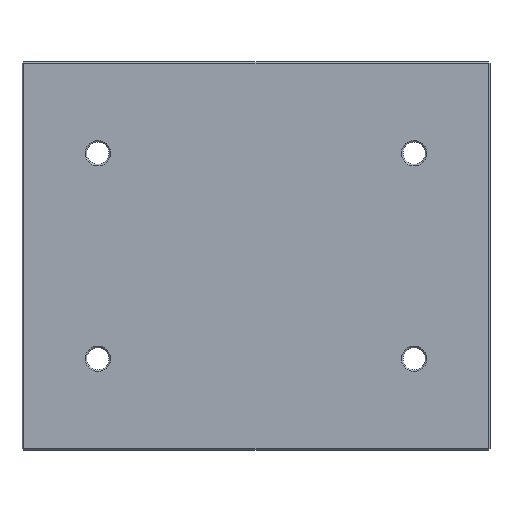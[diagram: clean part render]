
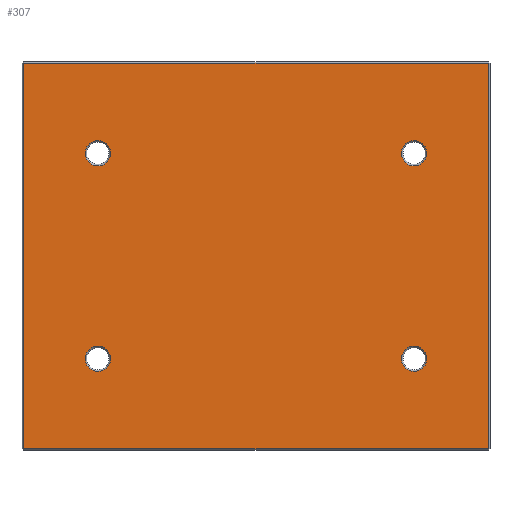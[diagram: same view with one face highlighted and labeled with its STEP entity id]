
A CAD part, front view. The second image highlights one B-rep face of the part: STEP entity #307.
In plain terms, the highlighted planar face has unit normal (0, -1, 0).
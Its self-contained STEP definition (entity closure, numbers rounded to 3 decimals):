
#8 = DIRECTION ( 'NONE',  ( 1., 0., 0. ) ) ;
#22 = CARTESIAN_POINT ( 'NONE',  ( 100., 0., 65. ) ) ;
#35 = CARTESIAN_POINT ( 'NONE',  ( 0., 0., 122. ) ) ;
#43 = EDGE_LOOP ( 'NONE', ( #561, #463, #1217, #1305 ) ) ;
#56 = DIRECTION ( 'NONE',  ( 0., 1., 0. ) ) ;
#64 = CARTESIAN_POINT ( 'NONE',  ( -100., 0., -65. ) ) ;
#86 = DIRECTION ( 'NONE',  ( 0., 1., 0. ) ) ;
#102 = CIRCLE ( 'NONE', #1517, 8. ) ;
#104 = DIRECTION ( 'NONE',  ( 0., 1., 0. ) ) ;
#108 = CARTESIAN_POINT ( 'NONE',  ( 100., 0., -65. ) ) ;
#116 = VERTEX_POINT ( 'NONE', #438 ) ;
#159 = DIRECTION ( 'NONE',  ( 0., 0., 1. ) ) ;
#171 = DIRECTION ( 'NONE',  ( 0., 0., 1. ) ) ;
#183 = CARTESIAN_POINT ( 'NONE',  ( 0., 0., -122. ) ) ;
#214 = ORIENTED_EDGE ( 'NONE', *, *, #909, .T. ) ;
#225 = VERTEX_POINT ( 'NONE', #1209 ) ;
#231 = VERTEX_POINT ( 'NONE', #504 ) ;
#238 = CARTESIAN_POINT ( 'NONE',  ( -147., 0., -122. ) ) ;
#250 = DIRECTION ( 'NONE',  ( 0., 1., 0. ) ) ;
#260 = CIRCLE ( 'NONE', #851, 8. ) ;
#267 = EDGE_CURVE ( 'NONE', #1307, #867, #864, .T. ) ;
#281 = EDGE_CURVE ( 'NONE', #1006, #539, #1520, .T. ) ;
#305 = CARTESIAN_POINT ( 'NONE',  ( -100., 0., -73. ) ) ;
#307 = ADVANCED_FACE ( 'NONE', ( #951, #1441, #1577, #1281, #1244 ), #525, .F. ) ;
#345 = CARTESIAN_POINT ( 'NONE',  ( 100., 0., -73. ) ) ;
#358 = AXIS2_PLACEMENT_3D ( 'NONE', #1613, #1594, #508 ) ;
#367 = AXIS2_PLACEMENT_3D ( 'NONE', #410, #250, #650 ) ;
#410 = CARTESIAN_POINT ( 'NONE',  ( -100., 0., 65. ) ) ;
#430 = EDGE_CURVE ( 'NONE', #1230, #231, #1634, .T. ) ;
#432 = ORIENTED_EDGE ( 'NONE', *, *, #1291, .T. ) ;
#438 = CARTESIAN_POINT ( 'NONE',  ( 147., 0., -122. ) ) ;
#455 = DIRECTION ( 'NONE',  ( -1., 0., 0. ) ) ;
#458 = VECTOR ( 'NONE', #455, 1000. ) ;
#463 = ORIENTED_EDGE ( 'NONE', *, *, #1220, .T. ) ;
#466 = CIRCLE ( 'NONE', #367, 8. ) ;
#485 = CARTESIAN_POINT ( 'NONE',  ( 100., 0., 65. ) ) ;
#492 = DIRECTION ( 'NONE',  ( 0., 1., 0. ) ) ;
#497 = DIRECTION ( 'NONE',  ( 0., 0., 1. ) ) ;
#501 = LINE ( 'NONE', #1529, #783 ) ;
#504 = CARTESIAN_POINT ( 'NONE',  ( -100., 0., -57. ) ) ;
#508 = DIRECTION ( 'NONE',  ( 0., 0., 1. ) ) ;
#519 = LINE ( 'NONE', #183, #1124 ) ;
#521 = DIRECTION ( 'NONE',  ( 0., 1., 0. ) ) ;
#525 = PLANE ( 'NONE',  #546 ) ;
#539 = VERTEX_POINT ( 'NONE', #870 ) ;
#546 = AXIS2_PLACEMENT_3D ( 'NONE', #609, #521, #623 ) ;
#548 = EDGE_CURVE ( 'NONE', #890, #822, #1175, .T. ) ;
#561 = ORIENTED_EDGE ( 'NONE', *, *, #1542, .T. ) ;
#565 = DIRECTION ( 'NONE',  ( 0., 0., -1. ) ) ;
#581 = EDGE_CURVE ( 'NONE', #822, #890, #260, .T. ) ;
#593 = CARTESIAN_POINT ( 'NONE',  ( 100., 0., 73. ) ) ;
#594 = VERTEX_POINT ( 'NONE', #1632 ) ;
#609 = CARTESIAN_POINT ( 'NONE',  ( 0., 0., 0. ) ) ;
#623 = DIRECTION ( 'NONE',  ( 0., 0., 1. ) ) ;
#650 = DIRECTION ( 'NONE',  ( 0., 0., 1. ) ) ;
#666 = ORIENTED_EDGE ( 'NONE', *, *, #581, .T. ) ;
#684 = AXIS2_PLACEMENT_3D ( 'NONE', #108, #104, #1228 ) ;
#733 = CARTESIAN_POINT ( 'NONE',  ( 100., 0., -65. ) ) ;
#750 = AXIS2_PLACEMENT_3D ( 'NONE', #22, #56, #171 ) ;
#783 = VECTOR ( 'NONE', #1412, 1000. ) ;
#822 = VERTEX_POINT ( 'NONE', #345 ) ;
#851 = AXIS2_PLACEMENT_3D ( 'NONE', #733, #891, #882 ) ;
#864 = LINE ( 'NONE', #1248, #1560 ) ;
#866 = VERTEX_POINT ( 'NONE', #1200 ) ;
#867 = VERTEX_POINT ( 'NONE', #238 ) ;
#870 = CARTESIAN_POINT ( 'NONE',  ( 100., 0., 57. ) ) ;
#882 = DIRECTION ( 'NONE',  ( 0., 0., 1. ) ) ;
#890 = VERTEX_POINT ( 'NONE', #1127 ) ;
#891 = DIRECTION ( 'NONE',  ( 0., 1., 0. ) ) ;
#909 = EDGE_CURVE ( 'NONE', #231, #1230, #1159, .T. ) ;
#938 = EDGE_CURVE ( 'NONE', #867, #116, #519, .T. ) ;
#951 = FACE_BOUND ( 'NONE', #1637, .T. ) ;
#965 = EDGE_CURVE ( 'NONE', #539, #1006, #102, .T. ) ;
#1006 = VERTEX_POINT ( 'NONE', #593 ) ;
#1016 = ORIENTED_EDGE ( 'NONE', *, *, #430, .T. ) ;
#1078 = EDGE_LOOP ( 'NONE', ( #432, #1293 ) ) ;
#1094 = ORIENTED_EDGE ( 'NONE', *, *, #548, .T. ) ;
#1124 = VECTOR ( 'NONE', #8, 1000. ) ;
#1127 = CARTESIAN_POINT ( 'NONE',  ( 100., 0., -57. ) ) ;
#1159 = CIRCLE ( 'NONE', #1424, 8. ) ;
#1175 = CIRCLE ( 'NONE', #684, 8. ) ;
#1198 = CARTESIAN_POINT ( 'NONE',  ( -147., 0., 122. ) ) ;
#1200 = CARTESIAN_POINT ( 'NONE',  ( 147., 0., 122. ) ) ;
#1209 = CARTESIAN_POINT ( 'NONE',  ( -100., 0., 73. ) ) ;
#1217 = ORIENTED_EDGE ( 'NONE', *, *, #267, .T. ) ;
#1220 = EDGE_CURVE ( 'NONE', #866, #1307, #1428, .T. ) ;
#1228 = DIRECTION ( 'NONE',  ( 0., 0., 1. ) ) ;
#1230 = VERTEX_POINT ( 'NONE', #305 ) ;
#1244 = FACE_OUTER_BOUND ( 'NONE', #43, .T. ) ;
#1248 = CARTESIAN_POINT ( 'NONE',  ( -147., 0., 0. ) ) ;
#1281 = FACE_BOUND ( 'NONE', #1661, .T. ) ;
#1291 = EDGE_CURVE ( 'NONE', #594, #225, #1310, .T. ) ;
#1293 = ORIENTED_EDGE ( 'NONE', *, *, #1572, .T. ) ;
#1305 = ORIENTED_EDGE ( 'NONE', *, *, #938, .T. ) ;
#1307 = VERTEX_POINT ( 'NONE', #1198 ) ;
#1310 = CIRCLE ( 'NONE', #1467, 8. ) ;
#1385 = EDGE_LOOP ( 'NONE', ( #1451, #1610 ) ) ;
#1412 = DIRECTION ( 'NONE',  ( 0., 0., 1. ) ) ;
#1424 = AXIS2_PLACEMENT_3D ( 'NONE', #64, #86, #159 ) ;
#1428 = LINE ( 'NONE', #35, #458 ) ;
#1441 = FACE_BOUND ( 'NONE', #1385, .T. ) ;
#1451 = ORIENTED_EDGE ( 'NONE', *, *, #965, .T. ) ;
#1467 = AXIS2_PLACEMENT_3D ( 'NONE', #1525, #1534, #1647 ) ;
#1517 = AXIS2_PLACEMENT_3D ( 'NONE', #485, #492, #497 ) ;
#1520 = CIRCLE ( 'NONE', #750, 8. ) ;
#1525 = CARTESIAN_POINT ( 'NONE',  ( -100., 0., 65. ) ) ;
#1529 = CARTESIAN_POINT ( 'NONE',  ( 147., 0., 0. ) ) ;
#1534 = DIRECTION ( 'NONE',  ( 0., 1., 0. ) ) ;
#1542 = EDGE_CURVE ( 'NONE', #116, #866, #501, .T. ) ;
#1560 = VECTOR ( 'NONE', #565, 1000. ) ;
#1572 = EDGE_CURVE ( 'NONE', #225, #594, #466, .T. ) ;
#1577 = FACE_BOUND ( 'NONE', #1078, .T. ) ;
#1594 = DIRECTION ( 'NONE',  ( 0., 1., 0. ) ) ;
#1610 = ORIENTED_EDGE ( 'NONE', *, *, #281, .T. ) ;
#1613 = CARTESIAN_POINT ( 'NONE',  ( -100., 0., -65. ) ) ;
#1632 = CARTESIAN_POINT ( 'NONE',  ( -100., 0., 57. ) ) ;
#1634 = CIRCLE ( 'NONE', #358, 8. ) ;
#1637 = EDGE_LOOP ( 'NONE', ( #666, #1094 ) ) ;
#1647 = DIRECTION ( 'NONE',  ( 0., 0., 1. ) ) ;
#1661 = EDGE_LOOP ( 'NONE', ( #1016, #214 ) ) ;
